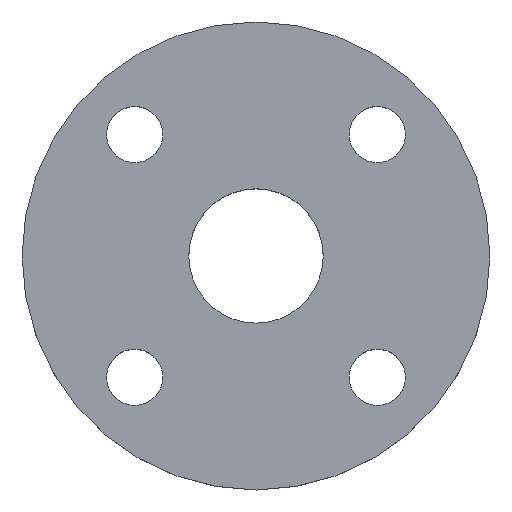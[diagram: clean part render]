
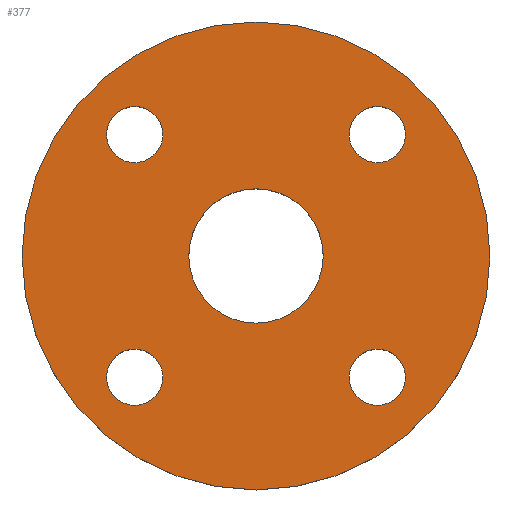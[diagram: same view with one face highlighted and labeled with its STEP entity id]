
A CAD part, top view. The second image highlights one B-rep face of the part: STEP entity #377.
In plain terms, the highlighted planar face has unit normal (0, 0, 1).
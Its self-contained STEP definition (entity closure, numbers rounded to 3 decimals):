
#7 = CIRCLE ( 'NONE', #58, 9. ) ;
#8 = CIRCLE ( 'NONE', #402, 21.55 ) ;
#13 = EDGE_CURVE ( 'NONE', #580, #567, #7, .T. ) ;
#18 = ORIENTED_EDGE ( 'NONE', *, *, #462, .T. ) ;
#20 = EDGE_CURVE ( 'NONE', #407, #382, #8, .T. ) ;
#25 = CARTESIAN_POINT ( 'NONE',  ( 0., 0., 0. ) ) ;
#26 = DIRECTION ( 'NONE',  ( 0., 0., -1. ) ) ;
#31 = AXIS2_PLACEMENT_3D ( 'NONE', #94, #93, #92 ) ;
#34 = CIRCLE ( 'NONE', #31, 75. ) ;
#51 = EDGE_CURVE ( 'NONE', #408, #590, #238, .T. ) ;
#58 = AXIS2_PLACEMENT_3D ( 'NONE', #618, #619, #620 ) ;
#80 = DIRECTION ( 'NONE',  ( -1., 0., 0. ) ) ;
#81 = DIRECTION ( 'NONE',  ( 0., 0., -1. ) ) ;
#83 = CARTESIAN_POINT ( 'NONE',  ( -38.891, 38.891, 0. ) ) ;
#90 = CARTESIAN_POINT ( 'NONE',  ( -75., 0., 0. ) ) ;
#92 = DIRECTION ( 'NONE',  ( 1., 0., 0. ) ) ;
#93 = DIRECTION ( 'NONE',  ( 0., 0., 1. ) ) ;
#94 = CARTESIAN_POINT ( 'NONE',  ( 0., 0., 0. ) ) ;
#100 = CARTESIAN_POINT ( 'NONE',  ( 29.891, -38.891, 0. ) ) ;
#111 = CARTESIAN_POINT ( 'NONE',  ( -29.891, 38.891, 0. ) ) ;
#115 = CARTESIAN_POINT ( 'NONE',  ( -29.891, -38.891, 0. ) ) ;
#132 = DIRECTION ( 'NONE',  ( 0., 0., -1. ) ) ;
#133 = CARTESIAN_POINT ( 'NONE',  ( 38.891, 38.891, 0. ) ) ;
#134 = DIRECTION ( 'NONE',  ( -1., 0., 0. ) ) ;
#154 = AXIS2_PLACEMENT_3D ( 'NONE', #83, #81, #80 ) ;
#158 = CIRCLE ( 'NONE', #154, 9. ) ;
#159 = AXIS2_PLACEMENT_3D ( 'NONE', #324, #679, #327 ) ;
#162 = DIRECTION ( 'NONE',  ( 1., 0., 0. ) ) ;
#166 = CARTESIAN_POINT ( 'NONE',  ( 0., 0., 0. ) ) ;
#175 = CARTESIAN_POINT ( 'NONE',  ( 29.891, 38.891, 0. ) ) ;
#180 = DIRECTION ( 'NONE',  ( -1., 0., 0. ) ) ;
#182 = CIRCLE ( 'NONE', #193, 9. ) ;
#183 = DIRECTION ( 'NONE',  ( 0., 0., 1. ) ) ;
#188 = CIRCLE ( 'NONE', #332, 9. ) ;
#193 = AXIS2_PLACEMENT_3D ( 'NONE', #133, #132, #180 ) ;
#203 = AXIS2_PLACEMENT_3D ( 'NONE', #166, #183, #162 ) ;
#221 = CARTESIAN_POINT ( 'NONE',  ( 47.891, -38.891, 0. ) ) ;
#222 = FACE_BOUND ( 'NONE', #534, .T. ) ;
#223 = FACE_BOUND ( 'NONE', #570, .T. ) ;
#227 = FACE_BOUND ( 'NONE', #420, .T. ) ;
#228 = FACE_BOUND ( 'NONE', #593, .T. ) ;
#229 = FACE_BOUND ( 'NONE', #603, .T. ) ;
#230 = FACE_OUTER_BOUND ( 'NONE', #579, .T. ) ;
#231 = PLANE ( 'NONE',  #336 ) ;
#232 = CARTESIAN_POINT ( 'NONE',  ( 0., 0., 0. ) ) ;
#233 = DIRECTION ( 'NONE',  ( 0., 0., 1. ) ) ;
#234 = DIRECTION ( 'NONE',  ( 1., 0., 0. ) ) ;
#238 = CIRCLE ( 'NONE', #694, 9. ) ;
#251 = CARTESIAN_POINT ( 'NONE',  ( -21.55, 0., 0. ) ) ;
#254 = CARTESIAN_POINT ( 'NONE',  ( 47.891, 38.891, 0. ) ) ;
#275 = CARTESIAN_POINT ( 'NONE',  ( 21.55, 0., 0. ) ) ;
#276 = CARTESIAN_POINT ( 'NONE',  ( -47.891, 38.891, 0. ) ) ;
#291 = CARTESIAN_POINT ( 'NONE',  ( 75., 0., 0. ) ) ;
#324 = CARTESIAN_POINT ( 'NONE',  ( 38.891, 38.891, 0. ) ) ;
#327 = DIRECTION ( 'NONE',  ( -1., 0., 0. ) ) ;
#332 = AXIS2_PLACEMENT_3D ( 'NONE', #742, #743, #744 ) ;
#336 = AXIS2_PLACEMENT_3D ( 'NONE', #232, #233, #234 ) ;
#337 = CIRCLE ( 'NONE', #159, 9. ) ;
#345 = EDGE_CURVE ( 'NONE', #599, #376, #445, .T. ) ;
#347 = CIRCLE ( 'NONE', #203, 75. ) ;
#348 = DIRECTION ( 'NONE',  ( 0., 0., -1. ) ) ;
#350 = CARTESIAN_POINT ( 'NONE',  ( -38.891, -38.891, 0. ) ) ;
#352 = DIRECTION ( 'NONE',  ( -1., 0., 0. ) ) ;
#353 = AXIS2_PLACEMENT_3D ( 'NONE', #728, #730, #731 ) ;
#354 = EDGE_CURVE ( 'NONE', #376, #599, #188, .T. ) ;
#362 = CARTESIAN_POINT ( 'NONE',  ( -47.891, -38.891, 0. ) ) ;
#365 = EDGE_CURVE ( 'NONE', #382, #407, #517, .T. ) ;
#376 = VERTEX_POINT ( 'NONE', #221 ) ;
#377 = ADVANCED_FACE ( 'NONE', ( #222, #223, #227, #228, #229, #230 ), #231, .T. ) ;
#382 = VERTEX_POINT ( 'NONE', #251 ) ;
#384 = VERTEX_POINT ( 'NONE', #254 ) ;
#402 = AXIS2_PLACEMENT_3D ( 'NONE', #625, #626, #627 ) ;
#407 = VERTEX_POINT ( 'NONE', #275 ) ;
#408 = VERTEX_POINT ( 'NONE', #276 ) ;
#419 = VERTEX_POINT ( 'NONE', #291 ) ;
#420 = EDGE_LOOP ( 'NONE', ( #538, #540 ) ) ;
#445 = CIRCLE ( 'NONE', #353, 9. ) ;
#452 = EDGE_CURVE ( 'NONE', #494, #384, #337, .T. ) ;
#462 = EDGE_CURVE ( 'NONE', #610, #419, #347, .T. ) ;
#494 = VERTEX_POINT ( 'NONE', #175 ) ;
#510 = EDGE_CURVE ( 'NONE', #567, #580, #594, .T. ) ;
#517 = CIRCLE ( 'NONE', #519, 21.55 ) ;
#519 = AXIS2_PLACEMENT_3D ( 'NONE', #25, #26, #134 ) ;
#530 = ORIENTED_EDGE ( 'NONE', *, *, #354, .T. ) ;
#531 = ORIENTED_EDGE ( 'NONE', *, *, #345, .T. ) ;
#534 = EDGE_LOOP ( 'NONE', ( #530, #531 ) ) ;
#535 = ORIENTED_EDGE ( 'NONE', *, *, #13, .T. ) ;
#537 = ORIENTED_EDGE ( 'NONE', *, *, #510, .T. ) ;
#538 = ORIENTED_EDGE ( 'NONE', *, *, #641, .T. ) ;
#540 = ORIENTED_EDGE ( 'NONE', *, *, #51, .T. ) ;
#541 = ORIENTED_EDGE ( 'NONE', *, *, #543, .T. ) ;
#542 = ORIENTED_EDGE ( 'NONE', *, *, #452, .T. ) ;
#543 = EDGE_CURVE ( 'NONE', #384, #494, #182, .T. ) ;
#544 = ORIENTED_EDGE ( 'NONE', *, *, #365, .T. ) ;
#545 = ORIENTED_EDGE ( 'NONE', *, *, #20, .T. ) ;
#546 = ORIENTED_EDGE ( 'NONE', *, *, #605, .T. ) ;
#567 = VERTEX_POINT ( 'NONE', #362 ) ;
#570 = EDGE_LOOP ( 'NONE', ( #535, #537 ) ) ;
#579 = EDGE_LOOP ( 'NONE', ( #546, #18 ) ) ;
#580 = VERTEX_POINT ( 'NONE', #115 ) ;
#590 = VERTEX_POINT ( 'NONE', #111 ) ;
#591 = AXIS2_PLACEMENT_3D ( 'NONE', #350, #348, #352 ) ;
#593 = EDGE_LOOP ( 'NONE', ( #541, #542 ) ) ;
#594 = CIRCLE ( 'NONE', #591, 9. ) ;
#599 = VERTEX_POINT ( 'NONE', #100 ) ;
#603 = EDGE_LOOP ( 'NONE', ( #544, #545 ) ) ;
#605 = EDGE_CURVE ( 'NONE', #419, #610, #34, .T. ) ;
#610 = VERTEX_POINT ( 'NONE', #90 ) ;
#618 = CARTESIAN_POINT ( 'NONE',  ( -38.891, -38.891, 0. ) ) ;
#619 = DIRECTION ( 'NONE',  ( 0., 0., -1. ) ) ;
#620 = DIRECTION ( 'NONE',  ( -1., 0., 0. ) ) ;
#625 = CARTESIAN_POINT ( 'NONE',  ( 0., 0., 0. ) ) ;
#626 = DIRECTION ( 'NONE',  ( 0., 0., -1. ) ) ;
#627 = DIRECTION ( 'NONE',  ( -1., 0., 0. ) ) ;
#638 = CARTESIAN_POINT ( 'NONE',  ( -38.891, 38.891, 0. ) ) ;
#639 = DIRECTION ( 'NONE',  ( 0., 0., -1. ) ) ;
#640 = DIRECTION ( 'NONE',  ( -1., 0., 0. ) ) ;
#641 = EDGE_CURVE ( 'NONE', #590, #408, #158, .T. ) ;
#679 = DIRECTION ( 'NONE',  ( 0., 0., -1. ) ) ;
#694 = AXIS2_PLACEMENT_3D ( 'NONE', #638, #639, #640 ) ;
#728 = CARTESIAN_POINT ( 'NONE',  ( 38.891, -38.891, 0. ) ) ;
#730 = DIRECTION ( 'NONE',  ( 0., 0., -1. ) ) ;
#731 = DIRECTION ( 'NONE',  ( -1., 0., 0. ) ) ;
#742 = CARTESIAN_POINT ( 'NONE',  ( 38.891, -38.891, 0. ) ) ;
#743 = DIRECTION ( 'NONE',  ( 0., 0., -1. ) ) ;
#744 = DIRECTION ( 'NONE',  ( -1., 0., 0. ) ) ;
